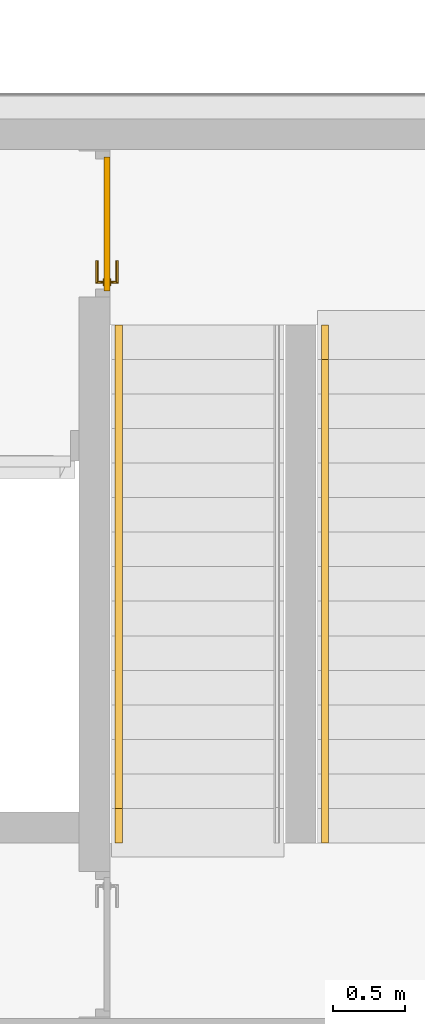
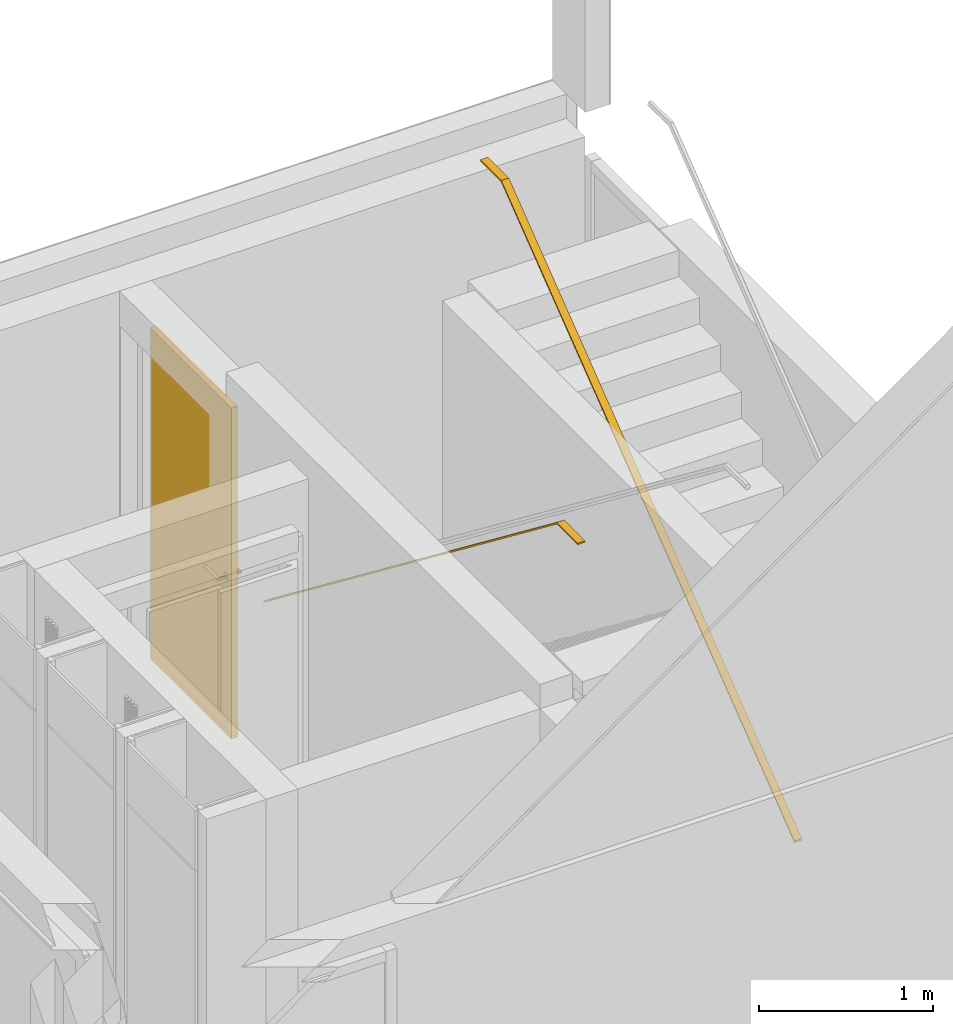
# One storey, part 17 of 22: 2 railings, 1 door, 2 elements without a shape of their own.
"""IFC2X3 building model written with IfcOpenShell, lengths in millimetres."""

from ifc_helpers import new_model, entity, si_unit, converted_unit, derived_unit, money_unit, direction, frame, origin_with_axes, place, context, subcontext, project, spatial, faceted_brep, source, transform, mapped, material, type_object, type_shapes, element, aggregate, save


model = new_model("IFC2X3")

# Units and contexts
model_context = context("Model", 3, precision=0.01, world=origin_with_axes(), true_north=direction((0.0, 1.0)))
body_context = subcontext(model_context, "Body", "Model", "MODEL_VIEW")
ifc_project = project(units=[si_unit("LENGTHUNIT", "METRE", prefix="MILLI"), si_unit("AREAUNIT", "SQUARE_METRE"), si_unit("VOLUMEUNIT", "CUBIC_METRE"), converted_unit("PLANEANGLEUNIT", "DEGREE", entity("IfcPlaneAngleMeasure", 0.0174532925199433), si_unit("PLANEANGLEUNIT", "RADIAN"), dimensions=[0, 0, 0, 0, 0, 0, 0]), money_unit("EUR"), converted_unit("TIMEUNIT", "Year", entity("IfcTimeMeasure", 31557600.0), si_unit("TIMEUNIT", "SECOND"), dimensions=[0, 0, 1, 0, 0, 0, 0]), si_unit("MASSUNIT", "GRAM", prefix="KILO"), si_unit("THERMODYNAMICTEMPERATUREUNIT", "DEGREE_CELSIUS"), si_unit("LUMINOUSINTENSITYUNIT", "LUMEN"), si_unit("ENERGYUNIT", "JOULE", prefix="MEGA"), derived_unit("THERMALCONDUCTANCEUNIT", [(si_unit("POWERUNIT", "WATT"), 1), (si_unit("LENGTHUNIT", "METRE"), -1), (si_unit("THERMODYNAMICTEMPERATUREUNIT", "KELVIN"), -1)]), derived_unit("SPECIFICHEATCAPACITYUNIT", [(si_unit("ENERGYUNIT", "JOULE"), 1), (si_unit("MASSUNIT", "GRAM", prefix="KILO"), -1), (si_unit("THERMODYNAMICTEMPERATUREUNIT", "KELVIN"), -1)]), derived_unit("MASSDENSITYUNIT", [(si_unit("MASSUNIT", "GRAM", prefix="KILO"), 1), (si_unit("VOLUMEUNIT", "CUBIC_METRE"), -1)])], contexts=[model_context])

# Site, building, storey
site_placement = place(None, origin_with_axes())
site = spatial("IfcSite", under=ifc_project, at=site_placement, Name="Site", CompositionType="ELEMENT")
building_placement = place(site_placement, origin_with_axes())
building = spatial("IfcBuilding", under=site, at=building_placement, Name="Naam gebouw", CompositionType="ELEMENT")
storey_placement = place(building_placement, frame((0.0, 0.0, 8690.0), z_axis=(0.0, 0.0, 1.0), x_axis=(1.0, 0.0, 0.0)))
storey = spatial("IfcBuildingStorey", under=building, at=storey_placement, Name="2e verdieping V", CompositionType="ELEMENT", Elevation=8690.0)

# Door
ifc_material_1 = material(Name="<Unnamed>")
door_style = type_object("IfcDoorStyle", Name="NLRS_32_deur stomp dicht_WID:Deur", ConstructionType="NOTDEFINED", OperationType="NOTDEFINED", ParameterTakesPrecedence=False, Sizeable=False)
shared_shape_1 = source(origin_with_axes(), body_context, "Body", "Brep", [
    faceted_brep([(410.0000000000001, 65.96445239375, 1091.33974596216), (407.58819045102, 65.96445239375, 1090.34074173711), (417.5000000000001, 65.96445239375, 1078.34936490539), (410.0000000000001, 74.00000000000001, 1091.33974596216), (407.58819045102, 74.00000000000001, 1090.34074173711), (411.4704761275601, 65.96445239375, 1075.85185434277), (422.6776695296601, 65.96445239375, 1082.32233047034), (412.0710678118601, 65.96445239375, 1092.92893218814), (412.0710678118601, 74.00000000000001, 1092.92893218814), (417.5000000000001, 74.00000000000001, 1078.34936490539), (405.0, 74.00000000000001, 1090.0), (405.0, 65.96445239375, 1090.0), (411.4704761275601, 74.00000000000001, 1075.85185434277), (422.6776695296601, 74.00000000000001, 1082.32233047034), (413.66025403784, 74.00000000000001, 1095.0), (413.66025403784, 65.96445239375, 1095.0), (402.41180954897, 65.96445239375, 1090.34074173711), (402.41180954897, 74.00000000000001, 1090.34074173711), (405.0, 65.96445239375, 1075.0), (405.0, 74.00000000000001, 1075.0), (426.6506350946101, 65.96445239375, 1087.5), (426.6506350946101, 74.00000000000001, 1087.5), (414.65925826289, 65.96445239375, 1097.41180954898), (414.65925826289, 74.00000000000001, 1097.41180954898), (400.0, 74.00000000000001, 1091.33974596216), (400.0, 65.96445239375, 1091.33974596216), (398.52952387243, 65.96445239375, 1075.85185434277), (398.52952387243, 74.00000000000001, 1075.85185434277), (429.14814565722, 65.96445239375, 1093.52952387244), (429.14814565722, 74.00000000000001, 1093.52952387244), (415.0000000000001, 65.96445239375, 1100.0), (415.0000000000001, 74.00000000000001, 1100.0), (397.92893218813, 74.00000000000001, 1092.92893218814), (397.92893218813, 65.96445239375, 1092.92893218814), (392.5, 65.96445239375, 1078.34936490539), (392.5, 74.00000000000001, 1078.34936490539), (430.0000000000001, 65.96445239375, 1100.0), (430.0000000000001, 74.00000000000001, 1100.0), (414.65925826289, 65.96445239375, 1102.58819045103), (414.65925826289, 74.00000000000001, 1102.58819045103), (396.3397459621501, 74.00000000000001, 1095.0), (396.3397459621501, 65.96445239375, 1095.0), (387.32233047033, 65.96445239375, 1082.32233047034), (387.32233047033, 74.00000000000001, 1082.32233047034), (429.14814565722, 74.00000000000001, 1106.47047612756), (429.14814565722, 65.96445239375, 1106.47047612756), (413.66025403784, 65.96445239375, 1105.0), (413.66025403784, 74.00000000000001, 1105.0), (395.34074173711, 65.96445239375, 1097.41180954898), (395.34074173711, 74.00000000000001, 1097.41180954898), (383.3493649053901, 74.00000000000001, 1087.5), (383.3493649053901, 65.96445239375, 1087.5), (426.6506350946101, 74.00000000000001, 1112.5), (426.6506350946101, 65.96445239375, 1112.5), (412.0710678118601, 74.00000000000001, 1107.07106781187), (412.0710678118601, 65.96445239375, 1107.07106781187), (380.8518543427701, 74.00000000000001, 1093.52952387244), (395.0, 65.96445239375, 1100.0), (395.0, 74.00000000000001, 1100.0), (380.8518543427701, 65.96445239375, 1093.52952387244), (422.6776695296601, 74.00000000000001, 1117.67766952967), (422.6776695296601, 65.96445239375, 1117.67766952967), (410.0000000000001, 65.96445239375, 1108.66025403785), (410.0000000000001, 74.00000000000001, 1108.66025403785), (380.0000000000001, 74.00000000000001, 1100.0), (395.34074173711, 74.00000000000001, 1102.58819045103), (395.34074173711, 65.96445239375, 1102.58819045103), (380.0000000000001, 65.96445239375, 1100.0), (417.5000000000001, 65.96445239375, 1121.65063509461), (417.5000000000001, 74.00000000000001, 1121.65063509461), (407.58819045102, 65.96445239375, 1109.65925826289), (407.58819045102, 74.00000000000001, 1109.65925826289), (380.8518543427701, 74.00000000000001, 1106.47047612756), (396.3397459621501, 74.00000000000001, 1105.0), (396.3397459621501, 65.96445239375, 1105.0), (380.8518543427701, 65.96445239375, 1106.47047612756), (411.4704761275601, 65.96445239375, 1124.14814565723), (411.4704761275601, 74.00000000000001, 1124.14814565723), (405.0, 65.96445239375, 1110.0), (405.0, 74.00000000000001, 1110.0), (383.3493649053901, 74.00000000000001, 1112.5), (397.92893218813, 74.00000000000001, 1107.07106781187), (397.92893218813, 65.96445239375, 1107.07106781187), (383.3493649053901, 65.96445239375, 1112.5), (405.0, 65.96445239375, 1125.0), (405.0, 74.00000000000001, 1125.0), (402.41180954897, 65.96445239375, 1109.65925826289), (402.41180954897, 74.00000000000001, 1109.65925826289), (387.32233047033, 74.00000000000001, 1117.67766952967), (400.0, 65.96445239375, 1108.66025403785), (400.0, 74.00000000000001, 1108.66025403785), (387.32233047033, 65.96445239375, 1117.67766952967), (398.52952387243, 74.00000000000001, 1124.14814565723), (398.52952387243, 65.96445239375, 1124.14814565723), (392.5, 74.00000000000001, 1121.65063509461), (392.5, 65.96445239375, 1121.65063509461)], [[[0, 1, 2]], [[1, 0, 3, 4]], [[1, 5, 2]], [[6, 0, 2]], [[0, 7, 8, 3]], [[3, 9, 4]], [[10, 11, 1, 4]], [[5, 1, 11]], [[9, 2, 5, 12]], [[0, 6, 7]], [[9, 13, 6, 2]], [[14, 8, 7, 15]], [[13, 3, 8]], [[13, 9, 3]], [[12, 4, 9]], [[16, 11, 10, 17]], [[4, 12, 10]], [[5, 11, 18]], [[12, 5, 18, 19]], [[6, 20, 7]], [[20, 6, 13, 21]], [[21, 8, 14]], [[7, 20, 15]], [[22, 23, 14, 15]], [[13, 8, 21]], [[16, 18, 11]], [[19, 17, 10]], [[16, 17, 24, 25]], [[10, 12, 19]], [[18, 26, 27, 19]], [[28, 20, 21, 29]], [[21, 14, 29]], [[22, 15, 20]], [[30, 31, 23, 22]], [[23, 29, 14]], [[18, 16, 26]], [[17, 19, 27]], [[17, 27, 24]], [[25, 24, 32, 33]], [[16, 25, 26]], [[26, 34, 35, 27]], [[28, 22, 20]], [[36, 28, 29, 37]], [[30, 38, 39, 31]], [[23, 31, 37]], [[28, 30, 22]], [[37, 29, 23]], [[27, 35, 24]], [[32, 24, 35]], [[32, 40, 41, 33]], [[33, 34, 25]], [[34, 26, 25]], [[34, 42, 43, 35]], [[30, 28, 36]], [[44, 45, 36, 37]], [[38, 30, 36]], [[38, 46, 47, 39]], [[44, 31, 39]], [[31, 44, 37]], [[32, 35, 43]], [[43, 40, 32]], [[48, 41, 40, 49]], [[41, 42, 33]], [[34, 33, 42]], [[50, 43, 42, 51]], [[52, 53, 45, 44]], [[36, 45, 38]], [[38, 45, 46]], [[54, 47, 46, 55]], [[39, 47, 52]], [[44, 39, 52]], [[43, 50, 40]], [[48, 51, 41]], [[56, 49, 40]], [[57, 48, 49, 58]], [[51, 42, 41]], [[50, 51, 59, 56]], [[52, 60, 61, 53]], [[53, 46, 45]], [[54, 52, 47]], [[53, 55, 46]], [[62, 63, 54, 55]], [[56, 40, 50]], [[59, 51, 48]], [[64, 49, 56]], [[59, 48, 57]], [[64, 58, 49]], [[57, 58, 65, 66]], [[56, 59, 67, 64]], [[60, 52, 54]], [[68, 61, 60, 69]], [[61, 55, 53]], [[70, 71, 63, 62]], [[63, 60, 54]], [[61, 62, 55]], [[59, 57, 67]], [[72, 58, 64]], [[72, 65, 58]], [[66, 65, 73, 74]], [[67, 57, 66]], [[67, 75, 72, 64]], [[61, 68, 62]], [[60, 63, 69]], [[76, 68, 69, 77]], [[70, 78, 79, 71]], [[63, 71, 69]], [[62, 68, 70]], [[72, 80, 65]], [[65, 80, 73]], [[73, 81, 82, 74]], [[75, 66, 74]], [[67, 66, 75]], [[75, 83, 80, 72]], [[76, 70, 68]], [[71, 77, 69]], [[84, 76, 77, 85]], [[70, 76, 78]], [[79, 78, 86, 87]], [[77, 71, 79]], [[80, 88, 73]], [[73, 88, 81]], [[89, 82, 81, 90]], [[91, 74, 82]], [[75, 74, 83]], [[83, 91, 88, 80]], [[78, 76, 84]], [[77, 79, 85]], [[92, 93, 84, 85]], [[84, 86, 78]], [[86, 89, 90, 87]], [[87, 85, 79]], [[94, 81, 88]], [[82, 89, 95]], [[81, 94, 90]], [[91, 83, 74]], [[82, 95, 91]], [[94, 88, 91, 95]], [[94, 95, 93, 92]], [[86, 84, 93]], [[85, 87, 92]], [[86, 93, 89]], [[87, 90, 92]], [[93, 95, 89]], [[94, 92, 90]]]),
    faceted_brep([(410.0000000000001, 74.00000000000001, 1091.33974596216), (407.58819045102, 74.00000000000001, 1090.34074173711), (405.0, 74.00000000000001, 1090.0), (402.41180954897, 74.00000000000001, 1090.34074173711), (400.0, 74.00000000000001, 1091.33974596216), (397.92893218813, 74.00000000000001, 1092.92893218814), (396.3397459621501, 74.00000000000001, 1095.0), (395.34074173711, 74.00000000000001, 1097.41180954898), (395.0, 74.00000000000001, 1100.0), (395.34074173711, 74.00000000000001, 1102.58819045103), (396.3397459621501, 74.00000000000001, 1105.0), (397.92893218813, 74.00000000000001, 1107.07106781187), (400.0, 74.00000000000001, 1108.66025403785), (402.41180954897, 74.00000000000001, 1109.65925826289), (405.0, 74.00000000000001, 1110.0), (407.58819045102, 74.00000000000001, 1109.65925826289), (410.0000000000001, 74.00000000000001, 1108.66025403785), (412.0710678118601, 74.00000000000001, 1107.07106781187), (413.66025403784, 74.00000000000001, 1105.0), (414.65925826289, 74.00000000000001, 1102.58819045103), (415.0000000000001, 74.00000000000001, 1100.0), (414.65925826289, 74.00000000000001, 1097.41180954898), (413.66025403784, 74.00000000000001, 1095.0), (412.0710678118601, 74.00000000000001, 1092.92893218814), (405.0, 24.0, 1090.0), (402.41180954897, 26.58819045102, 1090.34074173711), (400.0, 29.0, 1091.33974596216), (397.92893218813, 31.07106781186, 1092.92893218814), (396.3397459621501, 32.66025403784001, 1095.0), (395.34074173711, 33.65925826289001, 1097.41180954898), (395.0, 34.0, 1100.0), (395.34074173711, 33.65925826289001, 1102.58819045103), (396.3397459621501, 32.66025403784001, 1105.0), (397.92893218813, 31.07106781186, 1107.07106781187), (400.0, 29.0, 1108.66025403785), (402.41180954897, 26.58819045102, 1109.65925826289), (405.0, 24.0, 1110.0), (407.58819045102, 21.41180954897, 1109.65925826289), (412.0710678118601, 16.92893218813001, 1107.07106781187), (414.65925826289, 14.34074173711, 1102.58819045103), (415.0000000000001, 14.0, 1100.0), (414.65925826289, 14.34074173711, 1097.41180954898), (412.0710678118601, 16.92893218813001, 1092.92893218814), (407.58819045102, 21.41180954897, 1090.34074173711), (255.0, 32.66025403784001, 1095.0), (255.0, 33.65925826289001, 1097.41180954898), (255.0, 34.0, 1100.0), (255.0, 33.65925826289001, 1102.58819045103), (255.0, 32.66025403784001, 1105.0), (410.0000000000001, 19.0, 1108.66025403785), (413.66025403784, 15.33974596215, 1105.0), (255.0, 14.34074173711, 1102.58819045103), (255.0, 14.0, 1100.0), (255.0, 14.34074173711, 1097.41180954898), (413.66025403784, 15.33974596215, 1095.0), (410.0000000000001, 19.0, 1091.33974596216), (255.0, 26.58819045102, 1090.34074173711), (255.0, 24.0, 1090.0), (255.0, 29.0, 1091.33974596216), (255.0, 31.07106781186, 1092.92893218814), (255.0, 21.41180954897, 1090.34074173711), (255.0, 19.0, 1091.33974596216), (255.0, 16.92893218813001, 1092.92893218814), (255.0, 15.33974596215, 1095.0), (255.0, 15.33974596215, 1105.0), (255.0, 16.92893218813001, 1107.07106781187), (255.0, 19.0, 1108.66025403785), (255.0, 21.41180954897, 1109.65925826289), (255.0, 24.0, 1110.0), (255.0, 26.58819045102, 1109.65925826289), (255.0, 29.0, 1108.66025403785), (255.0, 31.07106781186, 1107.07106781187)], [[[0, 1, 2, 3, 4, 5, 6, 7, 8, 9, 10, 11, 12, 13, 14, 15, 16, 17, 18, 19, 20, 21, 22, 23]], [[24, 1, 0]], [[25, 2, 1]], [[3, 2, 26]], [[27, 4, 3]], [[5, 4, 28]], [[5, 28, 6]], [[28, 29, 7, 6]], [[29, 30, 8, 7]], [[30, 31, 9, 8]], [[31, 32, 10, 9]], [[10, 32, 11]], [[12, 11, 32]], [[33, 13, 12]], [[13, 34, 14]], [[14, 35, 15]], [[16, 15, 36]], [[16, 36, 17]], [[17, 37, 18]], [[19, 18, 38]], [[20, 19, 39, 40]], [[20, 40, 41, 21]], [[42, 22, 21]], [[23, 22, 43]], [[0, 23, 24]], [[1, 24, 25]], [[25, 26, 2]], [[26, 27, 3]], [[27, 28, 4]], [[44, 45, 29, 28]], [[45, 46, 30, 29]], [[46, 47, 31, 30]], [[47, 48, 32, 31]], [[32, 33, 12]], [[33, 34, 13]], [[14, 34, 35]], [[35, 36, 15]], [[37, 17, 36]], [[49, 18, 37]], [[38, 18, 49]], [[38, 50, 19]], [[19, 50, 39]], [[51, 52, 40, 39]], [[52, 53, 41, 40]], [[54, 21, 41]], [[22, 42, 55]], [[54, 42, 21]], [[22, 55, 43]], [[23, 43, 24]], [[56, 25, 24, 57]], [[56, 58, 26, 25]], [[58, 59, 27, 26]], [[59, 44, 28, 27]], [[57, 60, 61, 62, 63, 53, 52, 51, 64, 65, 66, 67, 68, 69, 70, 71, 48, 47, 46, 45, 44, 59, 58, 56]], [[48, 71, 33, 32]], [[71, 70, 34, 33]], [[70, 69, 35, 34]], [[68, 36, 35, 69]], [[37, 36, 68, 67]], [[67, 66, 49, 37]], [[66, 65, 38, 49]], [[65, 64, 50, 38]], [[64, 51, 39, 50]], [[53, 63, 54, 41]], [[62, 61, 55, 42]], [[63, 62, 42, 54]], [[61, 60, 43, 55]], [[60, 57, 24, 43]]]),
    faceted_brep([(417.4999999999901, 122.03554760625, 1078.34936490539), (407.58819045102, 122.03554760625, 1090.34074173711), (410.0000000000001, 122.03554760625, 1091.33974596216), (411.4704761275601, 122.03554760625, 1075.85185434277), (410.0000000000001, 114.0, 1091.33974596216), (407.58819045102, 114.0, 1090.34074173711), (422.6776695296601, 122.03554760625, 1082.32233047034), (411.4704761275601, 114.0, 1075.85185434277), (417.4999999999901, 114.0, 1078.34936490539), (405.0, 122.03554760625, 1090.0), (412.0710678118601, 114.0, 1092.92893218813), (412.0710678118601, 122.03554760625, 1092.92893218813), (405.0, 114.0, 1090.0), (422.6776695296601, 114.0, 1082.32233047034), (405.0, 114.0, 1075.0), (405.0, 122.03554760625, 1075.0), (413.66025403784, 122.03554760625, 1095.0), (413.66025403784, 114.0, 1095.0), (402.41180954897, 114.0, 1090.34074173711), (402.41180954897, 122.03554760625, 1090.34074173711), (426.6506350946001, 122.03554760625, 1087.5), (426.6506350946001, 114.0, 1087.5), (398.52952387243, 114.0, 1075.85185434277), (398.52952387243, 122.03554760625, 1075.85185434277), (414.65925826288, 114.0, 1097.41180954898), (414.65925826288, 122.03554760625, 1097.41180954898), (400.0, 122.03554760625, 1091.33974596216), (400.0, 114.0, 1091.33974596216), (429.14814565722, 114.0, 1093.52952387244), (429.14814565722, 122.03554760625, 1093.52952387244), (392.4999999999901, 114.0, 1078.34936490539), (392.4999999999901, 122.03554760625, 1078.34936490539), (415.0000000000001, 114.0, 1100.0), (415.0000000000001, 122.03554760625, 1100.0), (397.92893218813, 122.03554760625, 1092.92893218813), (397.92893218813, 114.0, 1092.92893218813), (430.0000000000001, 122.03554760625, 1100.0), (430.0000000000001, 114.0, 1100.0), (387.32233047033, 114.0, 1082.32233047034), (387.32233047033, 122.03554760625, 1082.32233047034), (414.65925826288, 114.0, 1102.58819045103), (414.65925826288, 122.03554760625, 1102.58819045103), (396.3397459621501, 122.03554760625, 1095.0), (396.3397459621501, 114.0, 1095.0), (429.14814565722, 122.03554760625, 1106.47047612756), (429.14814565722, 114.0, 1106.47047612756), (383.3493649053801, 114.0, 1087.5), (383.3493649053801, 122.03554760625, 1087.5), (413.66025403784, 114.0, 1105.0), (413.66025403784, 122.03554760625, 1105.0), (395.3407417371, 122.03554760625, 1097.41180954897), (395.3407417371, 114.0, 1097.41180954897), (426.6506350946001, 122.03554760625, 1112.5), (426.6506350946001, 114.0, 1112.5), (380.8518543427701, 114.0, 1093.52952387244), (380.8518543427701, 122.03554760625, 1093.52952387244), (412.0710678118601, 122.03554760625, 1107.07106781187), (412.0710678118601, 114.0, 1107.07106781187), (395.0, 122.03554760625, 1100.0), (395.0, 114.0, 1100.0), (422.6776695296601, 122.03554760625, 1117.67766952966), (422.6776695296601, 114.0, 1117.67766952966), (380.0000000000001, 114.0, 1100.0), (380.0000000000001, 122.03554760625, 1100.0), (410.0000000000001, 114.0, 1108.66025403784), (410.0000000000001, 122.03554760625, 1108.66025403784), (395.3407417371, 122.03554760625, 1102.58819045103), (395.3407417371, 114.0, 1102.58819045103), (417.4999999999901, 114.0, 1121.65063509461), (417.4999999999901, 122.03554760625, 1121.65063509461), (380.8518543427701, 114.0, 1106.47047612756), (380.8518543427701, 122.03554760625, 1106.47047612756), (407.58819045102, 114.0, 1109.65925826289), (407.58819045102, 122.03554760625, 1109.65925826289), (396.3397459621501, 122.03554760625, 1105.0), (396.3397459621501, 114.0, 1105.0), (411.4704761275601, 114.0, 1124.14814565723), (411.4704761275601, 122.03554760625, 1124.14814565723), (383.3493649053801, 114.0, 1112.5), (383.3493649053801, 122.03554760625, 1112.5), (405.0, 114.0, 1110.0), (405.0, 122.03554760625, 1110.0), (397.92893218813, 122.03554760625, 1107.07106781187), (397.92893218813, 114.0, 1107.07106781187), (405.0, 122.03554760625, 1125.0), (405.0, 114.0, 1125.0), (387.32233047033, 114.0, 1117.67766952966), (387.32233047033, 122.03554760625, 1117.67766952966), (402.41180954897, 114.0, 1109.65925826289), (402.41180954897, 122.03554760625, 1109.65925826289), (400.0, 122.03554760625, 1108.66025403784), (400.0, 114.0, 1108.66025403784), (398.52952387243, 122.03554760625, 1124.14814565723), (398.52952387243, 114.0, 1124.14814565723), (392.4999999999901, 114.0, 1121.65063509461), (392.4999999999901, 122.03554760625, 1121.65063509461)], [[[0, 1, 2]], [[0, 3, 1]], [[4, 2, 1, 5]], [[0, 2, 6]], [[7, 3, 0, 8]], [[9, 1, 3]], [[10, 11, 2, 4]], [[5, 1, 9, 12]], [[5, 8, 4]], [[11, 6, 2]], [[6, 13, 8, 0]], [[14, 15, 3, 7]], [[8, 5, 7]], [[15, 9, 3]], [[16, 11, 10, 17]], [[10, 4, 13]], [[18, 12, 9, 19]], [[12, 7, 5]], [[4, 8, 13]], [[11, 20, 6]], [[21, 13, 6, 20]], [[22, 23, 15, 14]], [[14, 7, 12]], [[9, 15, 19]], [[16, 20, 11]], [[17, 10, 21]], [[16, 17, 24, 25]], [[21, 10, 13]], [[12, 18, 14]], [[26, 27, 18, 19]], [[28, 21, 20, 29]], [[22, 30, 31, 23]], [[23, 19, 15]], [[22, 14, 18]], [[20, 16, 25]], [[28, 17, 21]], [[17, 28, 24]], [[25, 24, 32, 33]], [[34, 35, 27, 26]], [[27, 22, 18]], [[23, 26, 19]], [[20, 25, 29]], [[28, 29, 36, 37]], [[27, 30, 22]], [[30, 38, 39, 31]], [[26, 23, 31]], [[24, 28, 37]], [[37, 32, 24]], [[40, 41, 33, 32]], [[25, 33, 29]], [[34, 42, 43, 35]], [[30, 27, 35]], [[26, 31, 34]], [[36, 29, 33]], [[37, 36, 44, 45]], [[38, 30, 35]], [[39, 38, 46, 47]], [[39, 34, 31]], [[37, 45, 32]], [[48, 49, 41, 40]], [[36, 33, 41]], [[40, 32, 45]], [[34, 39, 42]], [[43, 42, 50, 51]], [[35, 43, 38]], [[41, 44, 36]], [[45, 44, 52, 53]], [[43, 46, 38]], [[54, 55, 47, 46]], [[42, 39, 47]], [[56, 49, 48, 57]], [[49, 44, 41]], [[53, 48, 40]], [[53, 40, 45]], [[42, 47, 50]], [[51, 50, 58, 59]], [[43, 51, 54]], [[44, 49, 52]], [[60, 61, 53, 52]], [[46, 43, 54]], [[62, 63, 55, 54]], [[50, 47, 55]], [[49, 56, 52]], [[48, 53, 57]], [[56, 57, 64, 65]], [[58, 50, 55]], [[66, 67, 59, 58]], [[51, 59, 62]], [[54, 51, 62]], [[68, 61, 60, 69]], [[57, 53, 61]], [[52, 56, 60]], [[70, 71, 63, 62]], [[63, 58, 55]], [[57, 61, 64]], [[65, 64, 72, 73]], [[56, 65, 60]], [[74, 75, 67, 66]], [[59, 67, 70]], [[66, 58, 63]], [[62, 59, 70]], [[68, 64, 61]], [[65, 69, 60]], [[76, 68, 69, 77]], [[70, 78, 79, 71]], [[71, 66, 63]], [[68, 72, 64]], [[72, 80, 81, 73]], [[73, 69, 65]], [[74, 82, 83, 75]], [[75, 78, 67]], [[74, 66, 71]], [[67, 78, 70]], [[68, 76, 72]], [[69, 73, 77]], [[76, 77, 84, 85]], [[78, 86, 87, 79]], [[79, 74, 71]], [[80, 72, 76]], [[88, 89, 81, 80]], [[81, 77, 73]], [[82, 74, 87]], [[83, 82, 90, 91]], [[83, 86, 75]], [[75, 86, 78]], [[84, 77, 81]], [[85, 84, 92, 93]], [[85, 80, 76]], [[87, 86, 94, 95]], [[74, 79, 87]], [[91, 90, 89, 88]], [[81, 89, 84]], [[80, 85, 88]], [[87, 95, 82]], [[95, 90, 82]], [[91, 94, 83]], [[86, 83, 94]], [[92, 84, 89]], [[93, 92, 95, 94]], [[93, 88, 85]], [[90, 92, 89]], [[93, 91, 88]], [[90, 95, 92]], [[91, 93, 94]]]),
    faceted_brep([(405.0, 114.0, 1090.0), (407.58819045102, 114.0, 1090.34074173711), (410.0000000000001, 114.0, 1091.33974596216), (412.0710678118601, 114.0, 1092.92893218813), (413.66025403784, 114.0, 1095.0), (414.65925826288, 114.0, 1097.41180954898), (415.0000000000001, 114.0, 1100.0), (414.65925826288, 114.0, 1102.58819045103), (413.66025403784, 114.0, 1105.0), (412.0710678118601, 114.0, 1107.07106781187), (410.0000000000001, 114.0, 1108.66025403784), (407.58819045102, 114.0, 1109.65925826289), (405.0, 114.0, 1110.0), (402.41180954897, 114.0, 1109.65925826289), (400.0, 114.0, 1108.66025403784), (397.92893218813, 114.0, 1107.07106781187), (396.3397459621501, 114.0, 1105.0), (395.3407417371, 114.0, 1102.58819045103), (395.0, 114.0, 1100.0), (395.3407417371, 114.0, 1097.41180954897), (396.3397459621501, 114.0, 1095.0), (397.92893218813, 114.0, 1092.92893218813), (400.0, 114.0, 1091.33974596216), (402.41180954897, 114.0, 1090.34074173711), (402.41180954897, 161.41180954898, 1090.34074173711), (405.0, 164.0, 1090.0), (407.58819045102, 166.58819045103, 1090.34074173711), (412.0710678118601, 171.07106781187, 1092.92893218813), (414.65925826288, 173.65925826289, 1097.41180954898), (415.0000000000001, 174.0, 1100.0), (414.65925826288, 173.65925826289, 1102.58819045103), (412.0710678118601, 171.07106781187, 1107.07106781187), (407.58819045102, 166.58819045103, 1109.65925826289), (405.0, 164.0, 1110.0), (402.41180954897, 161.41180954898, 1109.65925826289), (400.0, 159.0, 1108.66025403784), (397.92893218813, 156.92893218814, 1107.07106781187), (396.3397459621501, 155.33974596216, 1105.0), (395.3407417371, 154.3407417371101, 1102.58819045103), (395.0, 154.0, 1100.0), (395.3407417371, 154.3407417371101, 1097.41180954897), (396.3397459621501, 155.33974596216, 1095.0), (397.92893218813, 156.92893218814, 1092.92893218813), (400.0, 159.0, 1091.33974596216), (410.0000000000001, 169.0, 1091.33974596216), (413.66025403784, 172.66025403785, 1095.0), (255.0, 173.65925826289, 1097.41180954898), (255.0, 174.0, 1100.0), (255.0, 173.65925826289, 1102.58819045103), (413.66025403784, 172.66025403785, 1105.0), (410.0000000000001, 169.0, 1108.66025403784), (255.0, 155.33974596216, 1105.0), (255.0, 154.3407417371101, 1102.58819045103), (255.0, 154.0, 1100.0), (255.0, 154.3407417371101, 1097.41180954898), (255.0, 155.33974596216, 1095.0), (255.0, 159.0, 1091.33974596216), (255.0, 161.41180954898, 1090.34074173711), (255.0, 164.0, 1090.0), (255.0, 166.58819045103, 1090.34074173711), (255.0, 169.0, 1091.33974596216), (255.0, 171.07106781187, 1092.92893218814), (255.0, 172.66025403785, 1095.0), (255.0, 156.92893218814, 1092.92893218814), (255.0, 156.92893218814, 1107.07106781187), (255.0, 159.0, 1108.66025403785), (255.0, 161.41180954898, 1109.65925826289), (255.0, 164.0, 1110.0), (255.0, 166.58819045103, 1109.65925826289), (255.0, 169.0, 1108.66025403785), (255.0, 171.07106781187, 1107.07106781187), (255.0, 172.66025403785, 1105.0)], [[[0, 1, 2, 3, 4, 5, 6, 7, 8, 9, 10, 11, 12, 13, 14, 15, 16, 17, 18, 19, 20, 21, 22, 23]], [[1, 0, 24]], [[2, 1, 25]], [[25, 3, 2]], [[26, 4, 3]], [[5, 4, 27]], [[28, 29, 6, 5]], [[29, 30, 7, 6]], [[31, 8, 7]], [[8, 32, 9]], [[9, 33, 10]], [[33, 11, 10]], [[11, 34, 12]], [[12, 35, 13]], [[14, 13, 36]], [[37, 15, 14]], [[15, 37, 16]], [[16, 37, 38, 17]], [[18, 17, 38, 39]], [[19, 18, 39, 40]], [[20, 19, 40, 41]], [[20, 41, 21]], [[41, 22, 21]], [[23, 22, 42]], [[43, 0, 23]], [[0, 43, 24]], [[24, 25, 1]], [[25, 26, 3]], [[26, 44, 4]], [[44, 27, 4]], [[5, 27, 45]], [[28, 46, 47, 29]], [[28, 5, 45]], [[30, 29, 47, 48]], [[30, 49, 7]], [[50, 8, 31]], [[7, 49, 31]], [[32, 8, 50]], [[33, 9, 32]], [[11, 33, 34]], [[34, 35, 12]], [[13, 35, 36]], [[14, 36, 37]], [[38, 37, 51, 52]], [[39, 38, 52, 53]], [[39, 53, 54, 40]], [[40, 54, 55, 41]], [[22, 41, 42]], [[23, 42, 43]], [[43, 56, 57, 24]], [[58, 25, 24, 57]], [[26, 25, 58, 59]], [[26, 59, 60, 44]], [[44, 60, 61, 27]], [[27, 61, 62, 45]], [[45, 62, 46, 28]], [[60, 59, 58, 57, 56, 63, 55, 54, 53, 52, 51, 64, 65, 66, 67, 68, 69, 70, 71, 48, 47, 46, 62, 61]], [[49, 30, 48, 71]], [[50, 31, 70, 69]], [[31, 49, 71, 70]], [[32, 50, 69, 68]], [[68, 67, 33, 32]], [[34, 33, 67, 66]], [[35, 34, 66, 65]], [[36, 35, 65, 64]], [[37, 36, 64, 51]], [[41, 55, 63, 42]], [[42, 63, 56, 43]]]),
    faceted_brep([(465.0, 114.0, 0.0), (465.0, 74.00000000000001, 0.0), (-465.0, 74.00000000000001, 0.0), (-465.0, 114.0, 0.0), (465.0, 114.0, 2315.0), (465.0, 74.00000000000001, 2315.0), (-465.0, 74.00000000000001, 2315.0), (-465.0, 114.0, 2315.0)], [[[0, 1, 2, 3]], [[4, 5, 1, 0]], [[5, 6, 2, 1]], [[6, 7, 3, 2]], [[7, 4, 0, 3]], [[4, 7, 6, 5]]]),
])
type_shapes(door_style, [shared_shape_1])
door_placement = place(storey_placement, frame((33598.00000005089, 38448.91242624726, 0.0), z_axis=(0.0, 0.0, 1.0), x_axis=(0.0, -1.0, 0.0)))
element("IfcDoor", 1, at=door_placement, inside=storey, type_object=door_style, material=ifc_material_1, Name="NLRS_32_deur stomp dicht_WID:Deur", ObjectType="DOOR", context=body_context, shape_type="MappedRepresentation", body=[
    mapped(shared_shape_1, transform((0.0, 0.0, 0.0))),
])

# Stair, railing
stair_1_placement = place(storey_placement, frame((0.0, 0.0, -8690.0), z_axis=(0.0, 0.0, 1.0), x_axis=(1.0, 0.0, 0.0)))
stair_1 = element("IfcStair", 2, at=stair_1_placement, inside=storey, Name="Precast Stair:Stair", ObjectType="Precast Stair:24_trap - prefab", ShapeType="NOTDEFINED")
ifc_material_2 = material(Name="baluster_staal")
railing_type = type_object("IfcRailingType", Name="Railing:44_3B_leuning - staal 50x10mm", PredefinedType="NOTDEFINED")
shared_shape_2 = source(origin_with_axes(), body_context, "Body", "Brep", [
    faceted_brep([(0.0, 50.0, 12.61762558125), (0.0, 50.0, 0.0), (0.0, 0.0, 0.0), (0.0, 0.0, 12.61762558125), (3360.0, 50.0, 2597.95095891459), (3363.40196826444, 50.0, 2587.95095891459), (3363.40196826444, 0.0, 2587.95095891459), (3360.0, 0.0, 2597.95095891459), (3600.0, 50.0, 2597.95095891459), (3600.0, 50.0, 2587.95095891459), (3600.0, 0.0, 2587.95095891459), (3600.0, 0.0, 2597.95095891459)], [[[0, 1, 2, 3]], [[1, 0, 4, 5]], [[2, 1, 5, 6]], [[3, 2, 6, 7]], [[0, 3, 7, 4]], [[5, 4, 8, 9]], [[6, 5, 9, 10]], [[7, 6, 10, 11]], [[4, 7, 11, 8]], [[8, 11, 10, 9]]]),
])
type_shapes(railing_type, [shared_shape_2])
railing_1_placement = place(stair_1_placement, frame((35232.0000000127, 34145.91242629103, 9762.049041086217), z_axis=(0.0, 0.0, 1.0), x_axis=(0.0, 1.0, 0.0)))
railing_1 = element("IfcRailing", 3, at=railing_1_placement, type_object=railing_type, material=ifc_material_2, Name="Railing:44_3B_leuning - staal 50x10mm", PredefinedType="NOTDEFINED", context=body_context, shape_type="MappedRepresentation", body=[
    mapped(shared_shape_2, transform((0.0, 0.0, 0.0))),
])
aggregate(stair_1, [railing_1])

stair_2_placement = place(storey_placement, frame((0.0, 0.0, -8690.0), z_axis=(0.0, 0.0, 1.0), x_axis=(1.0, 0.0, 0.0)))
stair_2 = element("IfcStair", 4, at=stair_2_placement, inside=storey, Name="Precast Stair:Stair", ObjectType="Precast Stair:24_trap - prefab", ShapeType="NOTDEFINED")
railing_2_placement = place(stair_2_placement, frame((33798.00000006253, 34145.91242629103, 9762.049041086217), z_axis=(0.0, 0.0, 1.0), x_axis=(0.0, 1.0, 0.0)))
railing_2 = element("IfcRailing", 5, at=railing_2_placement, type_object=railing_type, material=ifc_material_2, Name="Railing:44_3B_leuning - staal 50x10mm", PredefinedType="NOTDEFINED", context=body_context, shape_type="Brep", body=[
    faceted_brep([(3600.0, 50.0, 12.61762558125), (3600.0, 0.0, 12.61762558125), (3600.0, 0.0, 0.0), (3600.0, 50.0, 0.0), (240.0, 50.0, 2597.95095891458), (240.0, 0.0, 2597.95095891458), (236.5980317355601, 0.0, 2587.95095891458), (236.5980317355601, 50.0, 2587.95095891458), (0.0, 50.0, 2597.95095891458), (0.0, 0.0, 2597.95095891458), (0.0, 0.0, 2587.95095891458), (0.0, 50.0, 2587.95095891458)], [[[0, 1, 2, 3]], [[1, 0, 4, 5]], [[2, 1, 5, 6]], [[3, 2, 6, 7]], [[0, 3, 7, 4]], [[5, 4, 8, 9]], [[6, 5, 9, 10]], [[7, 6, 10, 11]], [[4, 7, 11, 8]], [[8, 11, 10, 9]]]),
])
aggregate(stair_2, [railing_2])

save(model, "model.ifc")
